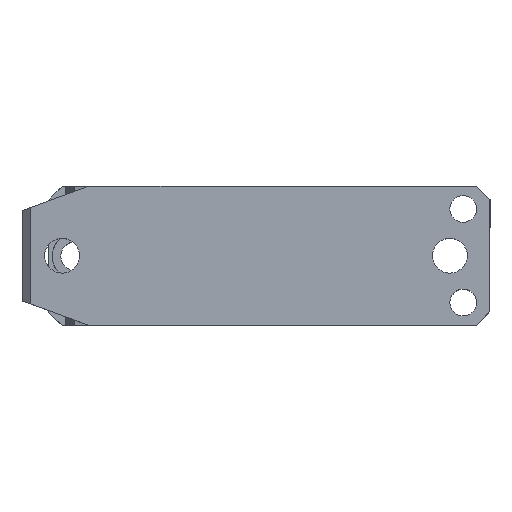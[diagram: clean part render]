
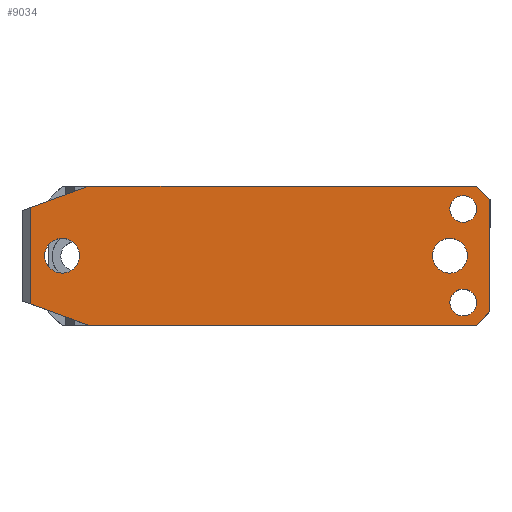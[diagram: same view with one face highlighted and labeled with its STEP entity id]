
A CAD part, top view. The second image highlights one B-rep face of the part: STEP entity #9034.
In plain terms, the highlighted planar face has unit normal (0, 0, 1).
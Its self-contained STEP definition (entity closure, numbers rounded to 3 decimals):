
#17 = CARTESIAN_POINT ( 'NONE',  ( 150., 0., 125. ) ) ;
#22 = CARTESIAN_POINT ( 'NONE',  ( 165., -21., 125. ) ) ;
#56 = VERTEX_POINT ( 'NONE', #705 ) ;
#85 = CARTESIAN_POINT ( 'NONE',  ( -1.5, 0., 125. ) ) ;
#89 = DIRECTION ( 'NONE',  ( 0., 0., -1. ) ) ;
#197 = CARTESIAN_POINT ( 'NONE',  ( 5., 0., 125. ) ) ;
#270 = DIRECTION ( 'NONE',  ( 0., 0., -1. ) ) ;
#363 = EDGE_LOOP ( 'NONE', ( #4420, #573 ) ) ;
#573 = ORIENTED_EDGE ( 'NONE', *, *, #4255, .T. ) ;
#606 = ORIENTED_EDGE ( 'NONE', *, *, #9855, .F. ) ;
#649 = VERTEX_POINT ( 'NONE', #11820 ) ;
#705 = CARTESIAN_POINT ( 'NONE',  ( 160., 26., 125. ) ) ;
#731 = EDGE_CURVE ( 'NONE', #1197, #10389, #7270, .T. ) ;
#748 = CARTESIAN_POINT ( 'NONE',  ( -7., 26., 125. ) ) ;
#955 = CARTESIAN_POINT ( 'NONE',  ( -10., 26., 125. ) ) ;
#963 = DIRECTION ( 'NONE',  ( -1., 0., 0. ) ) ;
#1135 = DIRECTION ( 'NONE',  ( 0., 0., -1. ) ) ;
#1136 = DIRECTION ( 'NONE',  ( -1., 0., 0. ) ) ;
#1197 = VERTEX_POINT ( 'NONE', #7316 ) ;
#1481 = VECTOR ( 'NONE', #6251, 1000. ) ;
#1505 = EDGE_CURVE ( 'NONE', #8707, #7146, #4672, .T. ) ;
#1597 = EDGE_CURVE ( 'NONE', #8707, #649, #8370, .T. ) ;
#1795 = EDGE_CURVE ( 'NONE', #3306, #11173, #10944, .T. ) ;
#1876 = CARTESIAN_POINT ( 'NONE',  ( 160., 26., 125. ) ) ;
#1963 = LINE ( 'NONE', #2933, #6878 ) ;
#2081 = CARTESIAN_POINT ( 'NONE',  ( 160., -17.5, 125. ) ) ;
#2220 = VERTEX_POINT ( 'NONE', #7998 ) ;
#2308 = CARTESIAN_POINT ( 'NONE',  ( 150., 17.5, 125. ) ) ;
#2780 = CARTESIAN_POINT ( 'NONE',  ( 156.5, 0., 125. ) ) ;
#2795 = LINE ( 'NONE', #2820, #5259 ) ;
#2812 = DIRECTION ( 'NONE',  ( 0., 0., -1. ) ) ;
#2820 = CARTESIAN_POINT ( 'NONE',  ( -10., 26., 125. ) ) ;
#2840 = LINE ( 'NONE', #1876, #5301 ) ;
#2933 = CARTESIAN_POINT ( 'NONE',  ( 160., -26., 125. ) ) ;
#3116 = EDGE_CURVE ( 'NONE', #11173, #3306, #9745, .T. ) ;
#3138 = FACE_BOUND ( 'NONE', #363, .T. ) ;
#3306 = VERTEX_POINT ( 'NONE', #2308 ) ;
#3368 = CARTESIAN_POINT ( 'NONE',  ( -7., 17.993, 125. ) ) ;
#3550 = VERTEX_POINT ( 'NONE', #4538 ) ;
#3691 = CARTESIAN_POINT ( 'NONE',  ( 150., -17.5, 125. ) ) ;
#4166 = CARTESIAN_POINT ( 'NONE',  ( -10., -16.901, 125. ) ) ;
#4186 = CARTESIAN_POINT ( 'NONE',  ( 165., 26., 125. ) ) ;
#4255 = EDGE_CURVE ( 'NONE', #2220, #5693, #10451, .T. ) ;
#4285 = EDGE_CURVE ( 'NONE', #56, #3550, #2840, .T. ) ;
#4299 = EDGE_LOOP ( 'NONE', ( #4346, #9323 ) ) ;
#4346 = ORIENTED_EDGE ( 'NONE', *, *, #1795, .T. ) ;
#4420 = ORIENTED_EDGE ( 'NONE', *, *, #5156, .T. ) ;
#4538 = CARTESIAN_POINT ( 'NONE',  ( 165., 21., 125. ) ) ;
#4542 = VERTEX_POINT ( 'NONE', #2081 ) ;
#4562 = AXIS2_PLACEMENT_3D ( 'NONE', #6662, #1135, #7573 ) ;
#4599 = CARTESIAN_POINT ( 'NONE',  ( 5., 0., 125. ) ) ;
#4626 = CARTESIAN_POINT ( 'NONE',  ( -10., 16.901, 125. ) ) ;
#4646 = PLANE ( 'NONE',  #10011 ) ;
#4672 = LINE ( 'NONE', #4166, #9799 ) ;
#4849 = ORIENTED_EDGE ( 'NONE', *, *, #5509, .T. ) ;
#5054 = CARTESIAN_POINT ( 'NONE',  ( 15., -26., 125. ) ) ;
#5075 = DIRECTION ( 'NONE',  ( -0.94, 0.342, 0. ) ) ;
#5156 = EDGE_CURVE ( 'NONE', #5693, #2220, #8005, .T. ) ;
#5234 = ORIENTED_EDGE ( 'NONE', *, *, #731, .T. ) ;
#5247 = DIRECTION ( 'NONE',  ( 0., 0., -1. ) ) ;
#5252 = CARTESIAN_POINT ( 'NONE',  ( 155., -17.5, 125. ) ) ;
#5259 = VECTOR ( 'NONE', #8352, 1000. ) ;
#5292 = FACE_OUTER_BOUND ( 'NONE', #7149, .T. ) ;
#5301 = VECTOR ( 'NONE', #6478, 1000. ) ;
#5432 = EDGE_CURVE ( 'NONE', #4542, #6463, #11824, .T. ) ;
#5505 = DIRECTION ( 'NONE',  ( -1., 0., 0. ) ) ;
#5509 = EDGE_CURVE ( 'NONE', #7996, #7146, #6383, .T. ) ;
#5539 = DIRECTION ( 'NONE',  ( 0.94, 0.342, 0. ) ) ;
#5638 = CARTESIAN_POINT ( 'NONE',  ( 155., 17.5, 125. ) ) ;
#5693 = VERTEX_POINT ( 'NONE', #85 ) ;
#5807 = AXIS2_PLACEMENT_3D ( 'NONE', #197, #6665, #1136 ) ;
#5825 = ORIENTED_EDGE ( 'NONE', *, *, #5432, .T. ) ;
#5827 = CARTESIAN_POINT ( 'NONE',  ( 150., 0., 125. ) ) ;
#6164 = ORIENTED_EDGE ( 'NONE', *, *, #9833, .F. ) ;
#6184 = DIRECTION ( 'NONE',  ( -1., 0., 0. ) ) ;
#6251 = DIRECTION ( 'NONE',  ( 0., -1., 0. ) ) ;
#6383 = LINE ( 'NONE', #748, #1481 ) ;
#6463 = VERTEX_POINT ( 'NONE', #3691 ) ;
#6478 = DIRECTION ( 'NONE',  ( 0.707, -0.707, 0. ) ) ;
#6489 = VERTEX_POINT ( 'NONE', #22 ) ;
#6494 = DIRECTION ( 'NONE',  ( 0., 0., -1. ) ) ;
#6513 = ORIENTED_EDGE ( 'NONE', *, *, #1505, .F. ) ;
#6574 = DIRECTION ( 'NONE',  ( -1., 0., 0. ) ) ;
#6588 = EDGE_LOOP ( 'NONE', ( #5234, #9773 ) ) ;
#6662 = CARTESIAN_POINT ( 'NONE',  ( 155., 17.5, 125. ) ) ;
#6665 = DIRECTION ( 'NONE',  ( 0., 0., -1. ) ) ;
#6752 = DIRECTION ( 'NONE',  ( -1., 0., 0. ) ) ;
#6878 = VECTOR ( 'NONE', #8424, 1000. ) ;
#7002 = LINE ( 'NONE', #4186, #11285 ) ;
#7146 = VERTEX_POINT ( 'NONE', #8510 ) ;
#7149 = EDGE_LOOP ( 'NONE', ( #606, #4849, #6513, #11725, #11893, #6164, #9795, #10753 ) ) ;
#7270 = CIRCLE ( 'NONE', #11580, 6.5 ) ;
#7316 = CARTESIAN_POINT ( 'NONE',  ( 143.5, 0., 125. ) ) ;
#7573 = DIRECTION ( 'NONE',  ( -1., 0., 0. ) ) ;
#7702 = VERTEX_POINT ( 'NONE', #10966 ) ;
#7723 = FACE_BOUND ( 'NONE', #9977, .T. ) ;
#7945 = CARTESIAN_POINT ( 'NONE',  ( -10., -26., 125. ) ) ;
#7996 = VERTEX_POINT ( 'NONE', #3368 ) ;
#7998 = CARTESIAN_POINT ( 'NONE',  ( 11.5, 0., 125. ) ) ;
#8005 = CIRCLE ( 'NONE', #5807, 6.5 ) ;
#8013 = FACE_BOUND ( 'NONE', #4299, .T. ) ;
#8027 = EDGE_CURVE ( 'NONE', #6463, #4542, #9306, .T. ) ;
#8352 = DIRECTION ( 'NONE',  ( 1., 0., 0. ) ) ;
#8370 = LINE ( 'NONE', #7945, #10530 ) ;
#8424 = DIRECTION ( 'NONE',  ( -0.707, -0.707, 0. ) ) ;
#8510 = CARTESIAN_POINT ( 'NONE',  ( -7., -17.993, 125. ) ) ;
#8532 = AXIS2_PLACEMENT_3D ( 'NONE', #4599, #10977, #5505 ) ;
#8617 = EDGE_CURVE ( 'NONE', #10389, #1197, #10013, .T. ) ;
#8707 = VERTEX_POINT ( 'NONE', #5054 ) ;
#8843 = LINE ( 'NONE', #4626, #10984 ) ;
#8858 = DIRECTION ( 'NONE',  ( 1., 0., 0. ) ) ;
#9034 = ADVANCED_FACE ( 'NONE', ( #7723, #8013, #3138, #10137, #5292 ), #4646, .F. ) ;
#9083 = AXIS2_PLACEMENT_3D ( 'NONE', #5252, #11659, #6184 ) ;
#9122 = EDGE_CURVE ( 'NONE', #6489, #649, #1963, .T. ) ;
#9214 = DIRECTION ( 'NONE',  ( -1., 0., 0. ) ) ;
#9306 = CIRCLE ( 'NONE', #9083, 5. ) ;
#9323 = ORIENTED_EDGE ( 'NONE', *, *, #3116, .T. ) ;
#9421 = ORIENTED_EDGE ( 'NONE', *, *, #8027, .T. ) ;
#9495 = CARTESIAN_POINT ( 'NONE',  ( 160., 17.5, 125. ) ) ;
#9649 = DIRECTION ( 'NONE',  ( 0., -1., 0. ) ) ;
#9745 = CIRCLE ( 'NONE', #4562, 5. ) ;
#9773 = ORIENTED_EDGE ( 'NONE', *, *, #8617, .T. ) ;
#9795 = ORIENTED_EDGE ( 'NONE', *, *, #4285, .F. ) ;
#9799 = VECTOR ( 'NONE', #5075, 1000. ) ;
#9833 = EDGE_CURVE ( 'NONE', #3550, #6489, #7002, .T. ) ;
#9855 = EDGE_CURVE ( 'NONE', #7996, #7702, #8843, .T. ) ;
#9860 = AXIS2_PLACEMENT_3D ( 'NONE', #5827, #270, #6752 ) ;
#9977 = EDGE_LOOP ( 'NONE', ( #9421, #5825 ) ) ;
#10011 = AXIS2_PLACEMENT_3D ( 'NONE', #955, #2812, #9214 ) ;
#10013 = CIRCLE ( 'NONE', #9860, 6.5 ) ;
#10137 = FACE_BOUND ( 'NONE', #6588, .T. ) ;
#10389 = VERTEX_POINT ( 'NONE', #2780 ) ;
#10451 = CIRCLE ( 'NONE', #8532, 6.5 ) ;
#10452 = EDGE_CURVE ( 'NONE', #7702, #56, #2795, .T. ) ;
#10530 = VECTOR ( 'NONE', #8858, 1000. ) ;
#10720 = CARTESIAN_POINT ( 'NONE',  ( 155., -17.5, 125. ) ) ;
#10753 = ORIENTED_EDGE ( 'NONE', *, *, #10452, .F. ) ;
#10944 = CIRCLE ( 'NONE', #11898, 5. ) ;
#10966 = CARTESIAN_POINT ( 'NONE',  ( 15., 26., 125. ) ) ;
#10977 = DIRECTION ( 'NONE',  ( 0., 0., -1. ) ) ;
#10984 = VECTOR ( 'NONE', #5539, 1000. ) ;
#11073 = AXIS2_PLACEMENT_3D ( 'NONE', #10720, #5247, #11652 ) ;
#11173 = VERTEX_POINT ( 'NONE', #9495 ) ;
#11285 = VECTOR ( 'NONE', #9649, 1000. ) ;
#11580 = AXIS2_PLACEMENT_3D ( 'NONE', #17, #6494, #963 ) ;
#11652 = DIRECTION ( 'NONE',  ( -1., 0., 0. ) ) ;
#11659 = DIRECTION ( 'NONE',  ( 0., 0., -1. ) ) ;
#11725 = ORIENTED_EDGE ( 'NONE', *, *, #1597, .T. ) ;
#11820 = CARTESIAN_POINT ( 'NONE',  ( 160., -26., 125. ) ) ;
#11824 = CIRCLE ( 'NONE', #11073, 5. ) ;
#11893 = ORIENTED_EDGE ( 'NONE', *, *, #9122, .F. ) ;
#11898 = AXIS2_PLACEMENT_3D ( 'NONE', #5638, #89, #6574 ) ;
